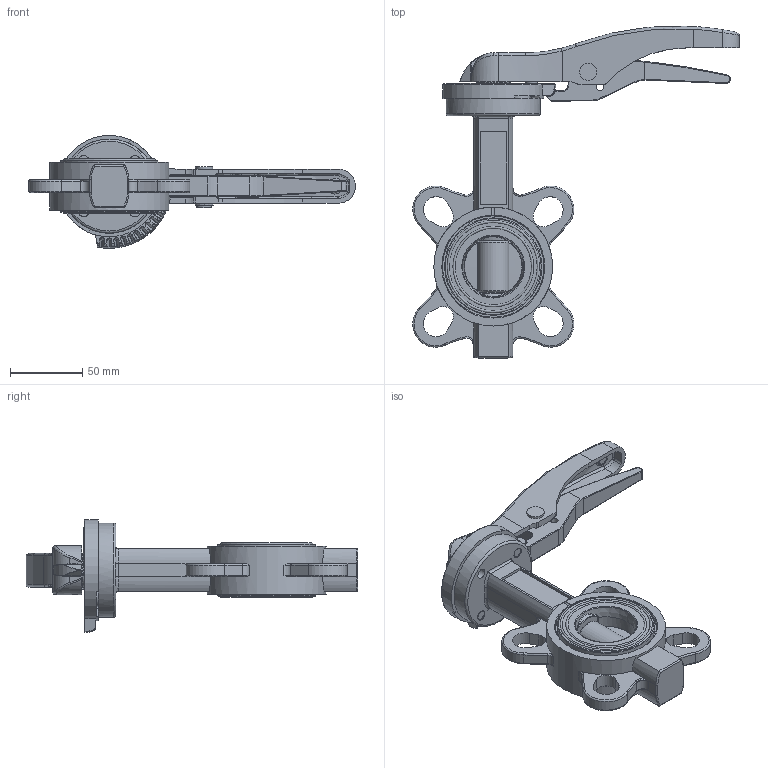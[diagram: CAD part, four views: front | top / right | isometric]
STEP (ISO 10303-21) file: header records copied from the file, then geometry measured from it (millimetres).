
FILE_DESCRIPTION (( 'STEP AP203' ), '1' );
FILE_NAME ('J9.DN040.STEP', '2012-12-17T10:30:23', ( 'luca.saino' ), ( 'Hewlett-Packard Company' ), 'SwSTEP 2.0', 'SolidWorks 2012', '' );
FILE_SCHEMA (( 'CONFIG_CONTROL_DESIGN' ));
Length unit declared in the file: millimetre
Products named in the file (1): J9.DN040
Bounding box: 225.32 x 228.99 x 77.87 mm (x, y, z)
Volume: 389797.8 mm3; surface area: 94965 mm2
Topology: 1 solids, 3 shells, 1113 faces, 2869 edges, 1817 vertices
Faces by surface type: plane 427, cylinder 297, bspline 180, torus 144, cone 51, sphere 14
Full cylindrical faces by diameter (mm): 1.5 x2, 4 x2, 5 x2, 7 x4, 8 x3, 10.2 x4, 12 x1, 13 x2, 15 x2, 65 x1, 67.2 x2, 70 x3, 82 x1
Entity records: 41342 total; most frequent: CARTESIAN_POINT 15764, ORIENTED_EDGE 5542, DIRECTION 4931, EDGE_CURVE 2771, AXIS2_PLACEMENT_3D 1829, VERTEX_POINT 1787, VECTOR 1273, LINE 1273
